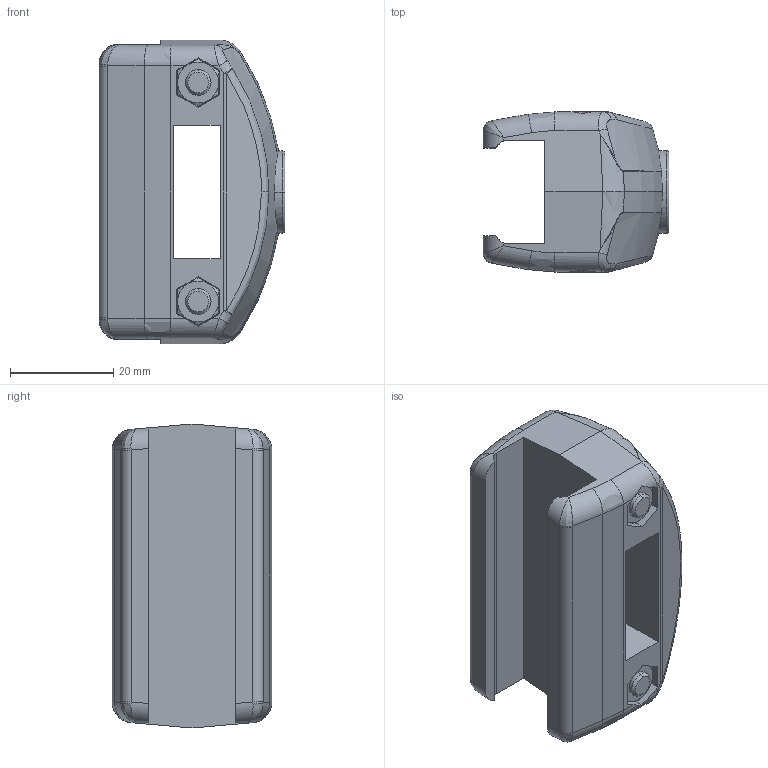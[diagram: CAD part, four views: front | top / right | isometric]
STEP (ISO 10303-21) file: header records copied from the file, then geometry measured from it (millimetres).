
FILE_DESCRIPTION (( 'STEP AP214' ), '1' );
FILE_NAME ('EL 92.step', '2017-04-05T07:36:20', ( '' ), ( '' ), 'SwSTEP 2.0', 'SolidWorks 2015', '' );
FILE_SCHEMA (( 'AUTOMOTIVE_DESIGN' ));
Length unit declared in the file: millimetre
Products named in the file (1): EL 92
Bounding box: 36.1 x 31 x 59 mm (x, y, z)
Volume: 31376.1 mm3; surface area: 15035.2 mm2
Topology: 6 solids, 6 shells, 230 faces, 570 edges, 346 vertices
Faces by surface type: plane 102, bspline 58, cylinder 44, cone 26
Entity records: 8801 total; most frequent: CARTESIAN_POINT 3845, ORIENTED_EDGE 1116, DIRECTION 854, EDGE_CURVE 558, VERTEX_POINT 346, AXIS2_PLACEMENT_3D 301, VECTOR 252, LINE 252
